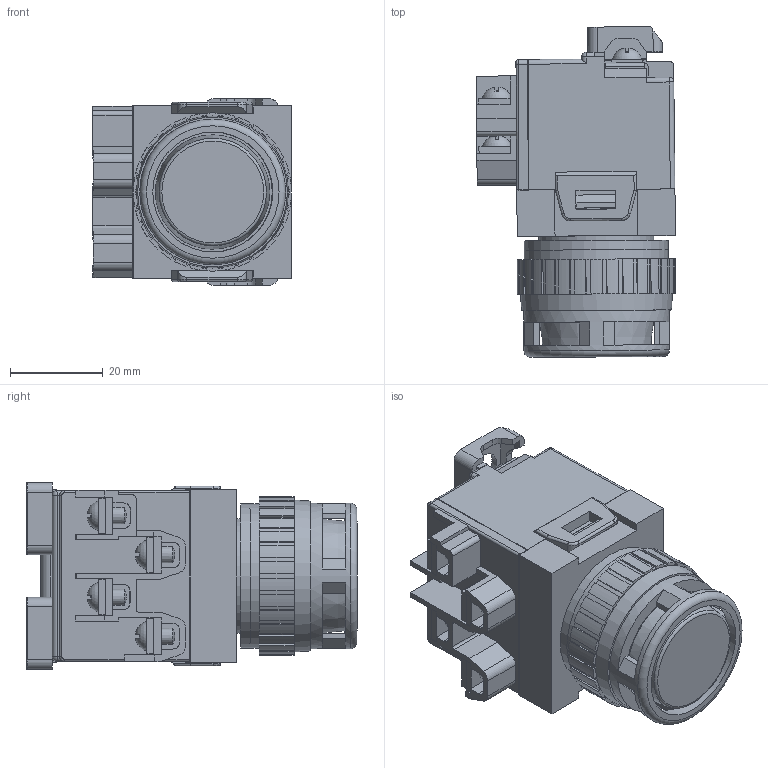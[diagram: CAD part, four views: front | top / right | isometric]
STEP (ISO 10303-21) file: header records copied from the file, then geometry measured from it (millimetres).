
FILE_DESCRIPTION(/* description */ (''),/* implementation_level */ '2;1');
FILE_NAME(/* name */ 'E:\Inventor 2016\제품 외형도\제어용 스위치\조광형 누름 버튼 스위치 (NPBL)\NPBL 30 (LED TYPE).stp',/* time_stamp */ '2019-04-09T10:11:40+09:00',/* author */ ('Kim'),/* organization */ (''),/* preprocessor_version */ 'ST-DEVELOPER v16.1',/* originating_system */ 'Autodesk Inventor 2016',/* authorisation */ '');
FILE_SCHEMA (('AUTOMOTIVE_DESIGN { 1 0 10303 214 3 1 1 }'));
Length unit declared in the file: millimetre
Products named in the file (18): 상부 (25파이); 1; 3; 4; 9; 10; 11; 12; 13; 14; 15; 16; 17; 하부; 보호커버; NPBL RING 30  (G60D037); NPBL 30(CAP); NPBL 30 (LED TYPE)
Assembly tree (17 placements, depth 3):
  NPBL 30 (LED TYPE)
    상부 (25파이)
    하부
      1
      3
      4
      9
      10
      11
      12
      13
      14
      15
      16
      17
    보호커버
    NPBL RING 30  (G60D037)
    NPBL 30(CAP)
Bounding box: 42.79 x 71.04 x 40.1 mm (x, y, z)
Volume: 61706.6 mm3; surface area: 31522.1 mm2
Topology: 18 solids, 20 shells, 751 faces, 2005 edges, 1309 vertices
Faces by surface type: plane 556, cylinder 159, bspline 12, cone 11, sphere 10, torus 3
Full cylindrical faces by diameter (mm): 0.1 x1, 8 x2, 21.3 x1, 22 x1, 23.3 x3, 24.6 x1, 24.7 x1, 25.8 x1, 31 x2, 31.3 x1
Entity records: 23771 total; most frequent: CARTESIAN_POINT 4446, DIRECTION 3942, ORIENTED_EDGE 3914, EDGE_CURVE 1955, LINE 1512, VECTOR 1512, VERTEX_POINT 1303, AXIS2_PLACEMENT_3D 1215
